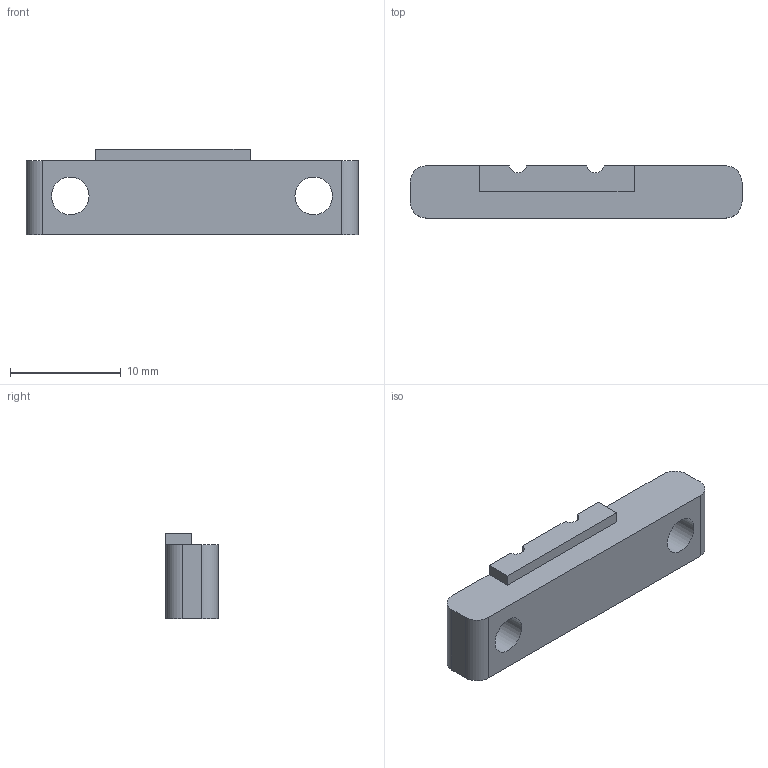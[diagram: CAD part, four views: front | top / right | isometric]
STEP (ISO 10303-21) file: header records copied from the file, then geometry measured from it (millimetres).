
FILE_DESCRIPTION(('Open CASCADE Model'),'2;1');
FILE_NAME('Open CASCADE Shape Model','2026-10-30T11:48:03',('Author'),( 'Open CASCADE'),'Open CASCADE STEP processor 7.9','Open CASCADE 7.9' ,'Unknown');
FILE_SCHEMA(('AUTOMOTIVE_DESIGN { 1 0 10303 214 1 1 1 1 }'));
Length unit declared in the file: millimetre
Products named in the file (1): Open CASCADE STEP translator 7.9 2
Bounding box: 30 x 4.73 x 7.71 mm (x, y, z)
Volume: 785.9 mm3; surface area: 873.2 mm2
Topology: 1 solids, 1 shells, 28 faces, 78 edges, 52 vertices
Faces by surface type: plane 20, cylinder 8
Full cylindrical faces by diameter (mm): 3.4 x2
Entity records: 1923 total; most frequent: CARTESIAN_POINT 394, DIRECTION 269, LINE 171, VECTOR 171, ORIENTED_EDGE 156, PCURVE 156, DEFINITIONAL_REPRESENTATION 156, EDGE_CURVE 78
